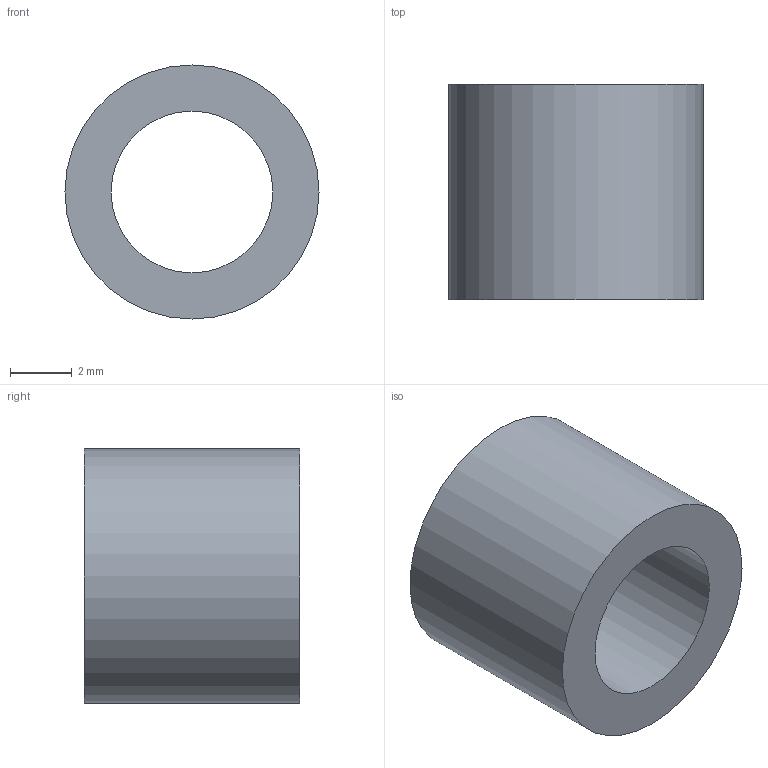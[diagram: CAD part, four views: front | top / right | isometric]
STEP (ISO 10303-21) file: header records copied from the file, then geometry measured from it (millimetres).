
FILE_DESCRIPTION(/* description */ ('STEP AP242 Edition 2','CAx-IF Rec.Pracs.---Representation and Presentation of Product Manufacturing Information (PMI)---4.0---2014-10-13','CAx-IF Rec.Pracs.---3D Tessellated Geometry---0.4---2014-09-14','2;1','CAx-IF Rec.Pracs.---User Defined Attributes---1.5---2016-08-15'),/* implementation_level */ '2;1');
FILE_NAME(/* name */ 'Inneringsmaller - Part 1',/* time_stamp */ '2026-09-12T07:35:58Z',/* author */ (''),/* organization */ (''),/* preprocessor_version */ 'ST-DEVELOPER v20',/* originating_system */ 'ONSHAPE BY PTC INC, 1.220',/* authorisation */ ' ');
FILE_SCHEMA (('AP242_MANAGED_MODEL_BASED_3D_ENGINEERING_MIM_LF { 1 0 10303 442 3 1 4 }'));
Length unit declared in the file: metre
Products named in the file (1): Part 1
Bounding box: 8.25 x 7 x 8.25 mm (x, y, z)
Volume: 222.7 mm3; surface area: 360.5 mm2
Topology: 1 solids, 1 shells, 4 faces, 6 edges, 4 vertices
Faces by surface type: cylinder 2, plane 2
Full cylindrical faces by diameter (mm): 5.25 x1, 8.25 x1
Entity records: 110 total; most frequent: DIRECTION 18, CARTESIAN_POINT 13, AXIS2_PLACEMENT_3D 9, ORIENTED_EDGE 8, EDGE_LOOP 8, FACE_BOUND 8, EDGE_CURVE 4, VERTEX_POINT 4
